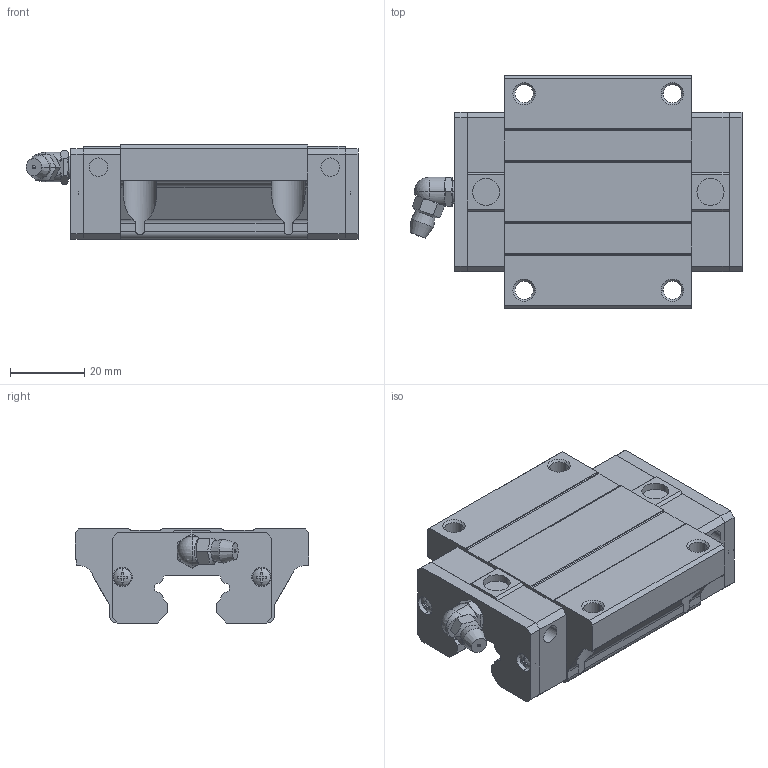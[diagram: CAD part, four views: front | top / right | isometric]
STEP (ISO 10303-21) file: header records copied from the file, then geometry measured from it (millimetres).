
FILE_DESCRIPTION(('starvars output'),'2;1');
FILE_NAME('cv20190610061005000016680.stp','06:10:06 2019/06/10',( 'Thomas Industrial Network Germany GmbH'),( 'Thomas Industrial Network Germany GmbH'),'unknown preprocess','ACIS' ,'unknown authorization');
FILE_SCHEMA(('CONFIG_CONTROL_DESIGN {UNKNOWN IMPLEMENTATION LEVEL}'));
Length unit declared in the file: millimetre
Products named in the file (10): PRODUCT_ID_23; PRODUCT_ID_24; PRODUCT_ID_25; PRODUCT_ID_26; PRODUCT_ID_27; PRODUCT_ID_28; PRODUCT_ID_29; PRODUCT_ID_30; PRODUCT_ID_31; PRODUCT_ID_32
Bounding box: 89.5 x 63 x 25.4 mm (x, y, z)
Volume: 79751.1 mm3; surface area: 25556 mm2
Topology: 10 solids, 10 shells, 416 faces, 1093 edges, 706 vertices
Faces by surface type: plane 265, cylinder 83, cone 56, sphere 12
Entity records: 12460 total; most frequent: CARTESIAN_POINT 2181, ORIENTED_EDGE 2178, DIRECTION 1696, EDGE_CURVE 1089, VERTEX_POINT 706, VECTOR 682, LINE 682, AXIS2_PLACEMENT_3D 507
